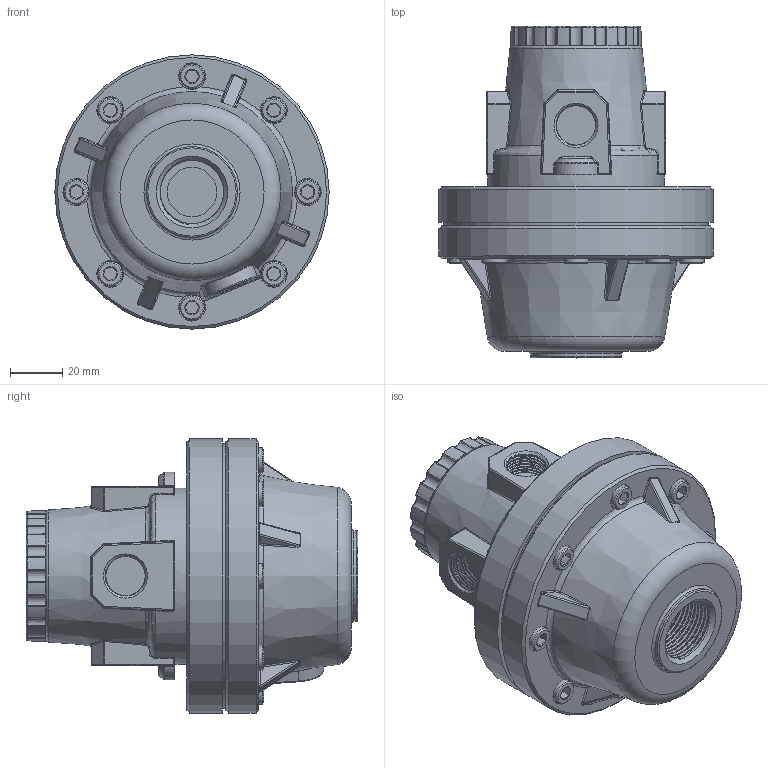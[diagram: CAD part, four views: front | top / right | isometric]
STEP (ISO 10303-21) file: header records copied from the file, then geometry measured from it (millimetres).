
FILE_DESCRIPTION(/* description */ (''),/* implementation_level */ '2;1');
FILE_NAME(/* name */ 'U:/AirCom-Produktdokumentation/Volumenstrombooster/R116/Zeichnungen/CAD-Aircom/3D/B-R116-03.step',/* time_stamp */ '2019-09-25T08:17:36+02:00',/* author */ (''),/* organization */ (''),/* preprocessor_version */ 'ST-DEVELOPER v18',/* originating_system */ 'Autodesk Translation Framework v8.6.0.1094',/* authorisation */ '');
FILE_SCHEMA (('AUTOMOTIVE_DESIGN { 1 0 10303 214 3 1 1 }'));
Products named in the file (3): (Nicht gespeichert); hpr100-4-bodenschraube v1; hpr100-4-verschluss v2
Assembly tree (9 placements, depth 2):
  (Nicht gespeichert)
    hpr100-4-verschluss v2  x8
    hpr100-4-bodenschraube v1
Bounding box: 105.39 x 127.51 x 105.39 mm (x, y, z)
Volume: 546277.2 mm3; surface area: 69368.8 mm2
Topology: 10 solids, 10 shells, 1010 faces, 2377 edges, 1412 vertices
Faces by surface type: bspline 338, cylinder 198, plane 189, cone 141, torus 89, sphere 55
Full cylindrical faces by diameter (mm): 4.928 x8, 5.11 x8, 9.525 x8, 10.29 x8, 13.157 x6, 16.662 x24, 19.05 x1, 26.441 x10, 30.218 x1, 34.93 x1, 68 x1, 101.6 x1, 105.39 x2
Entity records: 68503 total; most frequent: CARTESIAN_POINT 50091, ORIENTED_EDGE 4190, DIRECTION 3383, EDGE_CURVE 2095, AXIS2_PLACEMENT_3D 1504, VERTEX_POINT 1254, EDGE_LOOP 909, FACE_OUTER_BOUND 870
